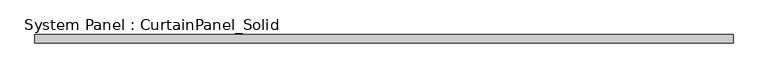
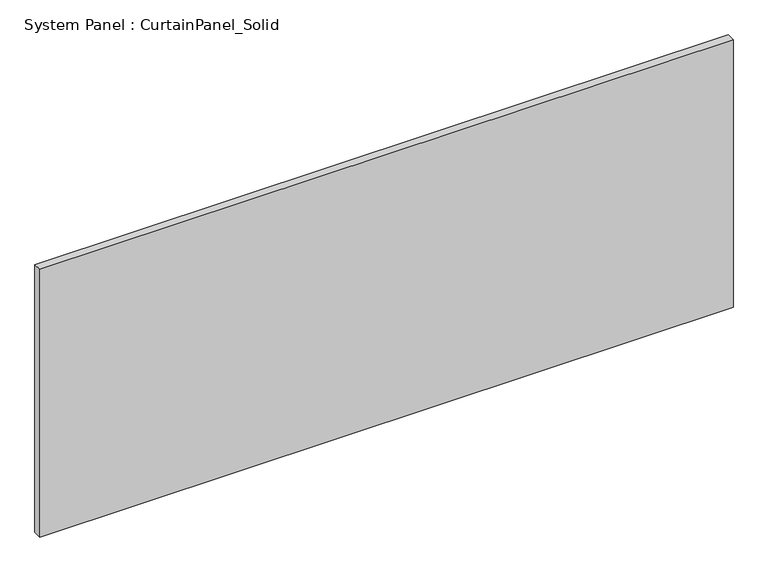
"""IFC4 building model written with IfcOpenShell, lengths in millimetres: plate geometry, System Panel : CurtainPanel_Solid."""

from ifc_helpers import new_model, si_unit, origin, origin_with_axes, place, context, project, spatial, polyline, outline, extrude, source, transform, mapped, element, save


def system_panel_curtainpanel_solid_ff987cd1(model_context):
    return source(origin(), model_context, "Body", "SweptSolid", [
        extrude(outline(polyline([(1041.0000001, -12.5), (-1041.0000001, -12.5), (-1041.0000001, 12.5), (1041.0000001, 12.5), (1041.0000001, -12.5)])), origin_with_axes(), (0.0, 0.0, 1.0), 850.0),
    ])


if __name__ == "__main__":
    model = new_model("IFC4")
    model_context = context("Model", 3, world=origin())
    ifc_project = project(units=[si_unit("LENGTHUNIT", "METRE", prefix="MILLI")], contexts=[model_context])
    site = spatial("IfcSite", under=ifc_project)
    building = spatial("IfcBuilding", under=site)
    placement = place(None, origin())
    system_panel_curtainpanel_solid_shape = system_panel_curtainpanel_solid_ff987cd1(model_context)
    element("IfcPlate", 1, ObjectType="System Panel : CurtainPanel_Solid", at=placement, inside=building, context=model_context, shape_type="MappedRepresentation", body=[
        mapped(system_panel_curtainpanel_solid_shape, transform((0.0, 0.0, 0.0), x_axis=(1.0, 0.0, 0.0), y_axis=(0.0, 1.0, 0.0), z_axis=(0.0, 0.0, 1.0))),
    ])
    save(model, "model.ifc")
